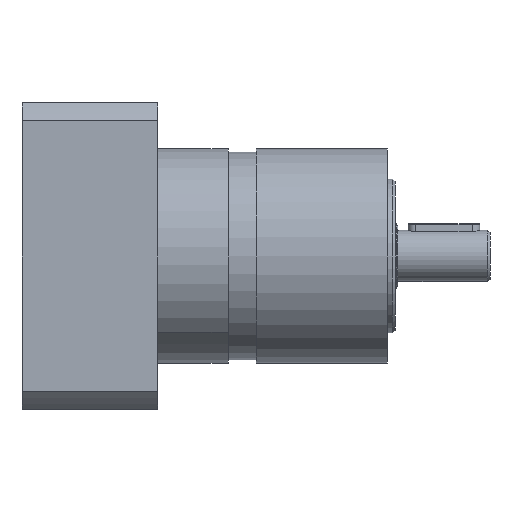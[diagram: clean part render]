
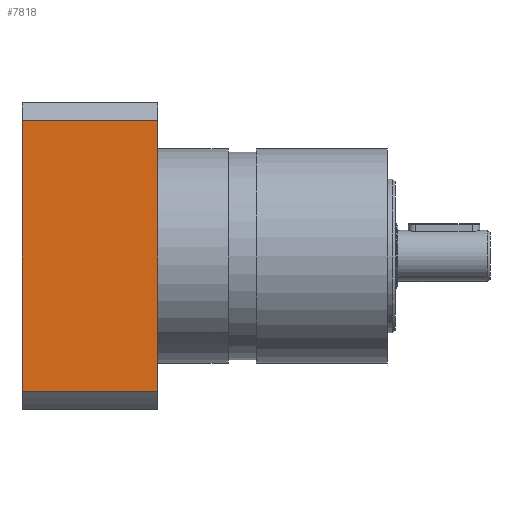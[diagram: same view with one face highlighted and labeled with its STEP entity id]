
A CAD part, left-side view. The second image highlights one B-rep face of the part: STEP entity #7818.
In plain terms, the highlighted planar face has unit normal (-1, 0, 0).
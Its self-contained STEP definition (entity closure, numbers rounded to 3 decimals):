
#512 = VECTOR ( 'NONE', #4059, 1000. ) ;
#765 = CARTESIAN_POINT ( 'NONE',  ( -60., 53., -52.915 ) ) ;
#1258 = ORIENTED_EDGE ( 'NONE', *, *, #6165, .T. ) ;
#1278 = VECTOR ( 'NONE', #5396, 1000. ) ;
#1926 = CARTESIAN_POINT ( 'NONE',  ( -60., 53., -52.915 ) ) ;
#1968 = DIRECTION ( 'NONE',  ( 0., -1., 0. ) ) ;
#2153 = CARTESIAN_POINT ( 'NONE',  ( -60., 53., 52.915 ) ) ;
#2401 = CARTESIAN_POINT ( 'NONE',  ( -60., 0., -52.915 ) ) ;
#2514 = FACE_OUTER_BOUND ( 'NONE', #2779, .T. ) ;
#2644 = ORIENTED_EDGE ( 'NONE', *, *, #5232, .F. ) ;
#2779 = EDGE_LOOP ( 'NONE', ( #2810, #2644, #7188, #1258 ) ) ;
#2810 = ORIENTED_EDGE ( 'NONE', *, *, #4501, .T. ) ;
#2912 = VERTEX_POINT ( 'NONE', #1926 ) ;
#3052 = CARTESIAN_POINT ( 'NONE',  ( -60., 53., 0. ) ) ;
#3081 = PLANE ( 'NONE',  #3858 ) ;
#3366 = LINE ( 'NONE', #765, #6670 ) ;
#3389 = LINE ( 'NONE', #3052, #3791 ) ;
#3791 = VECTOR ( 'NONE', #5602, 1000. ) ;
#3858 = AXIS2_PLACEMENT_3D ( 'NONE', #4324, #5684, #5051 ) ;
#4059 = DIRECTION ( 'NONE',  ( 0., 0., 1. ) ) ;
#4324 = CARTESIAN_POINT ( 'NONE',  ( -60., 53., 0. ) ) ;
#4501 = EDGE_CURVE ( 'NONE', #5809, #7702, #6714, .T. ) ;
#4582 = CARTESIAN_POINT ( 'NONE',  ( -60., 0., 52.915 ) ) ;
#4928 = EDGE_CURVE ( 'NONE', #2912, #5116, #3389, .T. ) ;
#5051 = DIRECTION ( 'NONE',  ( 0., 0., -1. ) ) ;
#5116 = VERTEX_POINT ( 'NONE', #5260 ) ;
#5232 = EDGE_CURVE ( 'NONE', #5116, #7702, #6405, .T. ) ;
#5260 = CARTESIAN_POINT ( 'NONE',  ( -60., 53., 52.915 ) ) ;
#5396 = DIRECTION ( 'NONE',  ( 0., -1., 0. ) ) ;
#5602 = DIRECTION ( 'NONE',  ( 0., 0., 1. ) ) ;
#5684 = DIRECTION ( 'NONE',  ( 1., 0., 0. ) ) ;
#5809 = VERTEX_POINT ( 'NONE', #2401 ) ;
#6165 = EDGE_CURVE ( 'NONE', #2912, #5809, #3366, .T. ) ;
#6405 = LINE ( 'NONE', #2153, #1278 ) ;
#6670 = VECTOR ( 'NONE', #1968, 1000. ) ;
#6714 = LINE ( 'NONE', #7762, #512 ) ;
#7188 = ORIENTED_EDGE ( 'NONE', *, *, #4928, .F. ) ;
#7702 = VERTEX_POINT ( 'NONE', #4582 ) ;
#7762 = CARTESIAN_POINT ( 'NONE',  ( -60., 0., 0. ) ) ;
#7818 = ADVANCED_FACE ( 'NONE', ( #2514 ), #3081, .F. ) ;
